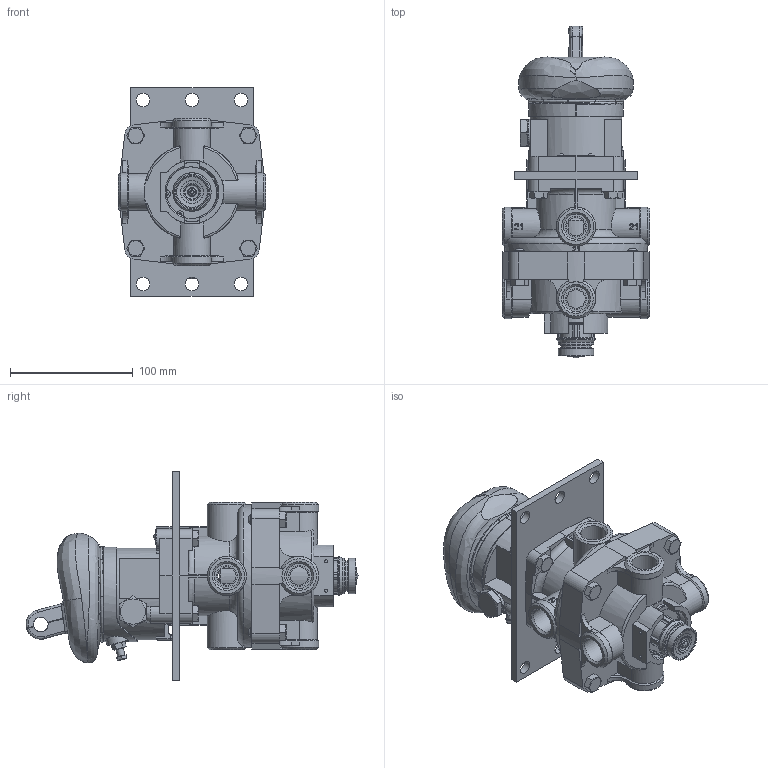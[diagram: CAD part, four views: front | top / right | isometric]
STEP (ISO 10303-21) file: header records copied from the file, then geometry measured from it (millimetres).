
FILE_DESCRIPTION(/* description */ (''),/* implementation_level */ '2;1');
FILE_NAME(/* name */ '8000.35.14.008-02-Кран тормозной двухсекционный с рычагом.stp',/* time_stamp */ '2023-12-11T14:26:22+03:00',/* author */ (''),/* organization */ (''),/* preprocessor_version */ 'ST-DEVELOPER v16.7',/* originating_system */ 'SIEMENS PLM Software NX 1899',/* authorisation */ '');
FILE_SCHEMA (('AUTOMOTIVE_DESIGN { 1 0 10303 214 3 1 1 1 }'));
Products named in the file (1): kuzm4420FE6Chxsa
Bounding box: 120 x 270.87 x 170 mm (x, y, z)
Volume: 636517.8 mm3; surface area: 292959 mm2
Topology: 4 solids, 21 shells, 1465 faces, 3753 edges, 2439 vertices
Faces by surface type: plane 763, cylinder 333, extrusion 122, cone 97, bspline 80, torus 60, sphere 9, revolution 1
Full cylindrical faces by diameter (mm): 2 x1, 2.5 x6, 2.8 x2, 3 x2, 3.2 x2, 4 x1, 5 x1, 6 x4, 6.646 x4, 8 x12, 9 x4, 9.5 x4, 11 x6, 12 x5, 14 x2, 14.175 x2, 14.5 x1, 15 x6, 17 x8, 20.1 x1, 20.376 x4, 20.5 x4, 23.5 x2, 23.95 x1, 24.6 x1, 28.8 x2, 31.3 x1, 32 x4, 32.2 x1, 32.5 x1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
Entity records: 52403 total; most frequent: CARTESIAN_POINT 19453, ORIENTED_EDGE 6832, DIRECTION 6151, EDGE_CURVE 3416, VERTEX_POINT 2353, AXIS2_PLACEMENT_3D 2288, EDGE_LOOP 1917, VECTOR 1574
